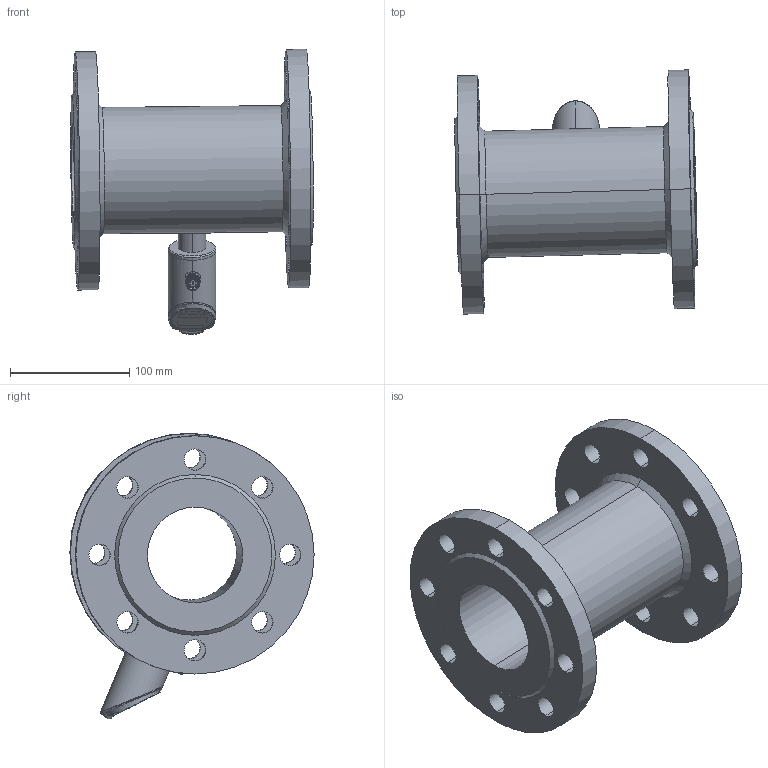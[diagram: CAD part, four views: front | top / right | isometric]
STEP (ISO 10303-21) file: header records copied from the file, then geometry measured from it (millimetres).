
FILE_DESCRIPTION (( 'STEP AP203' ), '1' );
FILE_NAME ('勤俋FXGDN80蚾饜极.STEP', '2025-12-25T02:43:36', ( '' ), ( '' ), 'SwSTEP 2.0', 'SolidWorks 2022', '' );
FILE_SCHEMA (( 'CONFIG_CONTROL_DESIGN' ));
Length unit declared in the file: millimetre
Products named in the file (13): 桶芛; 勤俋DN80楊擘PN16; _X2_66F29762_X0_2_0; _X2_9762819C_X0_; _X2_88C5914D4F53_X0_1111111_ASM; FXG_X2_6D4191CF6E295EA64F20611F_ASM; 勤俋FXGDN80蚾饜极; _X2_88C5914D4F53_X0_4_5_0_ASM; _X2_58F34F53_X0__0; _X2_63D25934_X0_1; 勤俋FXG覜茼芛俋褲; 勤俋FXG桶芛; 对外FXG斜面表头及感应探头
Assembly tree (12 placements, depth 8):
  勤俋FXGDN80蚾饜极
    对外FXG斜面表头及感应探头
      勤俋FXG桶芛
        桶芛
          _X2_88C5914D4F53_X0_1111111_ASM
            FXG_X2_6D4191CF6E295EA64F20611F_ASM
              _X2_88C5914D4F53_X0_4_5_0_ASM
                _X2_63D25934_X0_1
                _X2_58F34F53_X0__0
                _X2_66F29762_X0_2_0
              _X2_9762819C_X0_
      勤俋FXG覜茼芛俋褲
    勤俋DN80楊擘PN16
Bounding box: 203.52 x 204.93 x 239.56 mm (x, y, z)
Volume: 1576493.6 mm3; surface area: 260676.5 mm2
Topology: 6 solids, 7 shells, 252 faces, 598 edges, 391 vertices
Faces by surface type: cylinder 120, plane 73, bspline 45, cone 14
Entity records: 19034 total; most frequent: CARTESIAN_POINT 12035, ORIENTED_EDGE 1194, DIRECTION 1086, EDGE_CURVE 597, AXIS2_PLACEMENT_3D 440, VERTEX_POINT 391, EDGE_LOOP 324, ADVANCED_FACE 252
